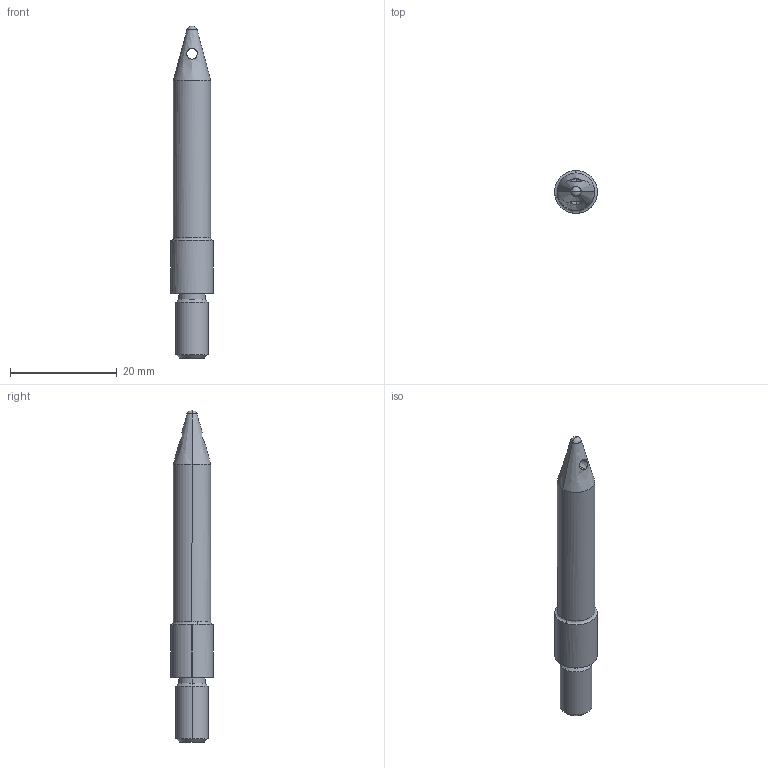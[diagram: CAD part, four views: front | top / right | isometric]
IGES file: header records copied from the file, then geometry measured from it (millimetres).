
Global section: file name: E:\UnigraphicsGraphicData\MISUMI_PRESS-PARTS\IGES\3d_slpsh8-p7.00-b30-t10_02956_r00.igs; native system: NX V5.0; preprocessor: UGS NX IGES V5.0; author: MISUMI; date: 20110105.162802; units: millimetre
Bounding box: 8 x 8 x 62.2 mm (x, y, z)
Surface area: 1355.2 mm2 (no closed solid volume)
Topology: 0 solids, 0 shells, 24 faces, 148 edges, 146 vertices
Faces by surface type: bspline 24
